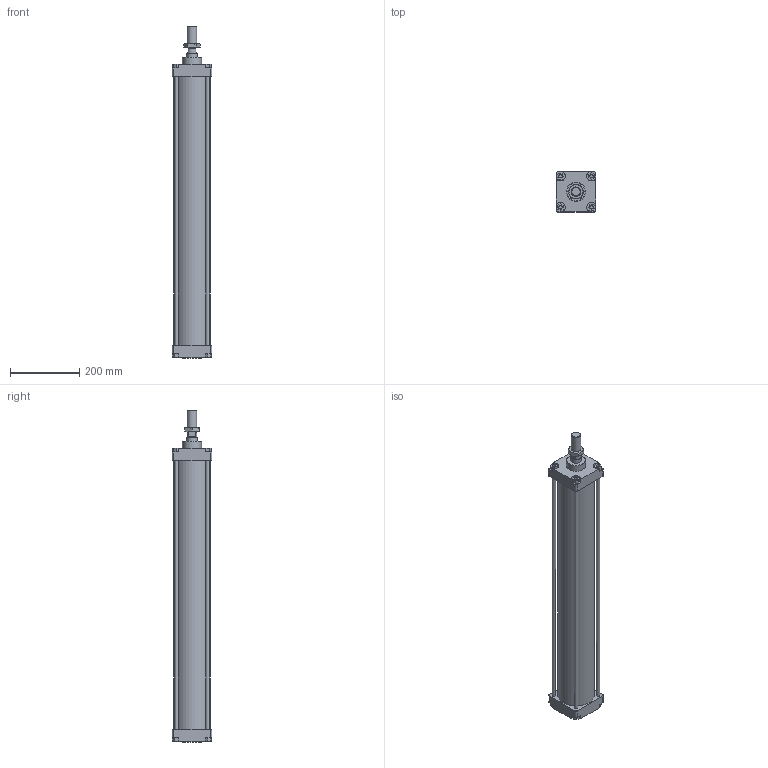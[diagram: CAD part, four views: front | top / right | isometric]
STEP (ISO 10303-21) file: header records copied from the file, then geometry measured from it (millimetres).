
FILE_DESCRIPTION(/* description */ (''),/* implementation_level */ '2;1');
FILE_NAME(/* name */ 'I:\Area Tecnica\Disegni\VARIE-3D\Componenti\CSP\Ø100\130#_100_####_###\1303_100_0700_01A.stp',/* time_stamp */ '2016-11-24T14:05:38+01:00',/* author */ ('Maniean1'),/* organization */ ('Pneumax S.p.A.'),/* preprocessor_version */ 'ST-DEVELOPER v15.2',/* originating_system */ 'Autodesk Inventor 2014',/* authorisation */ '');
FILE_SCHEMA (('AUTOMOTIVE_DESIGN { 1 0 10303 214 3 1 1 }'));
Length unit declared in the file: millimetre
Products named in the file (6): C_130#_100_0700; Testata anteriore_100; Testata posteriore_100; S_1303_100_0700_01A; 1300_100_18F; 1303_100_0700_01A
Bounding box: 115 x 115 x 957 mm (x, y, z)
Volume: 3029100.4 mm3; surface area: 835860.6 mm2
Topology: 9 solids, 9 shells, 162 faces, 380 edges, 249 vertices
Faces by surface type: plane 105, cylinder 42, cone 15
Full cylindrical faces by diameter (mm): 10 x12, 19 x2, 21.8 x1, 24.835 x1, 27 x1, 28 x1, 30 x3, 55 x2, 100 x2, 106 x1
Entity records: 4530 total; most frequent: CARTESIAN_POINT 785, DIRECTION 764, ORIENTED_EDGE 672, EDGE_CURVE 336, AXIS2_PLACEMENT_3D 271, VERTEX_POINT 244, EDGE_LOOP 236, LINE 222
